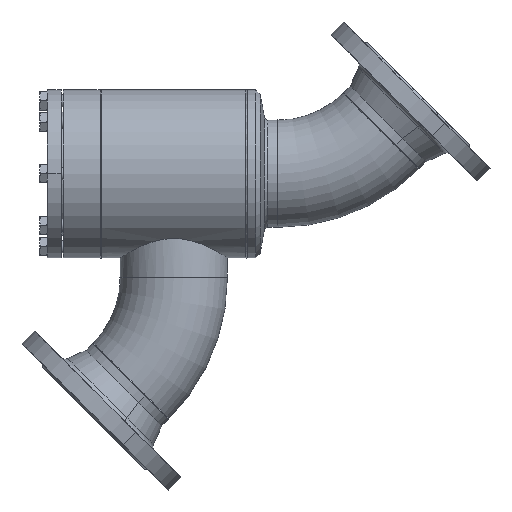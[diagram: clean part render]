
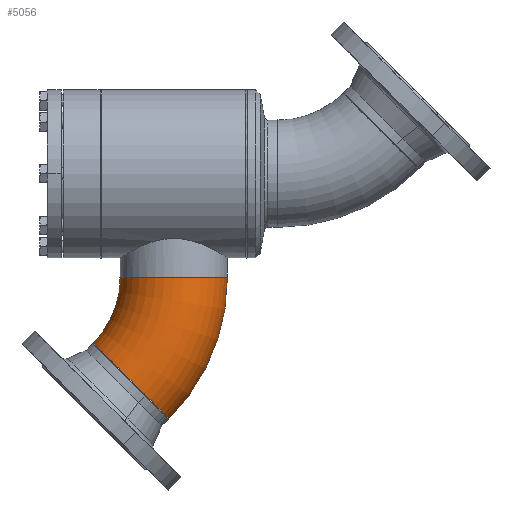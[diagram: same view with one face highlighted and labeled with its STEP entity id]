
A CAD part, left-side view. The second image highlights one B-rep face of the part: STEP entity #5056.
In plain terms, the highlighted toroidal (fillet/blend) face has major radius 190 mm and minor radius 69.85 mm.
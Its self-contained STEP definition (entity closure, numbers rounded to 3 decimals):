
#628 = FACE_OUTER_BOUND ( 'NONE', #5084, .T. ) ;
#629 = TOROIDAL_SURFACE ( 'NONE', #630, 190., 69.85 ) ;
#630 = AXIS2_PLACEMENT_3D ( 'NONE', #631, #632, #633 ) ;
#631 = CARTESIAN_POINT ( 'NONE',  ( 0., -190., 0. ) ) ;
#632 = DIRECTION ( 'NONE',  ( 0., 0., 1. ) ) ;
#633 = DIRECTION ( 'NONE',  ( 1., 0., 0. ) ) ;
#1124 = CIRCLE ( 'NONE', #1125, 120.15 ) ;
#1125 = AXIS2_PLACEMENT_3D ( 'NONE', #1126, #1127, #1128 ) ;
#1126 = CARTESIAN_POINT ( 'NONE',  ( 0., -190., 0. ) ) ;
#1127 = DIRECTION ( 'NONE',  ( 0., 0., 1. ) ) ;
#1128 = DIRECTION ( 'NONE',  ( 1., 0., 0. ) ) ;
#2284 = CARTESIAN_POINT ( 'NONE',  ( 0., -69.85, 0. ) ) ;
#2384 = CIRCLE ( 'NONE', #2385, 69.85 ) ;
#2385 = AXIS2_PLACEMENT_3D ( 'NONE', #2386, #2387, #2388 ) ;
#2386 = CARTESIAN_POINT ( 'NONE',  ( 0., 0., 0. ) ) ;
#2387 = DIRECTION ( 'NONE',  ( 1., 0., 0. ) ) ;
#2388 = DIRECTION ( 'NONE',  ( 0., 0., -1. ) ) ;
#3101 = CARTESIAN_POINT ( 'NONE',  ( 0., 69.85, 0. ) ) ;
#3201 = CIRCLE ( 'NONE', #3202, 259.85 ) ;
#3202 = AXIS2_PLACEMENT_3D ( 'NONE', #3203, #3204, #3205 ) ;
#3203 = CARTESIAN_POINT ( 'NONE',  ( 0., -190., 0. ) ) ;
#3204 = DIRECTION ( 'NONE',  ( 0., 0., 1. ) ) ;
#3205 = DIRECTION ( 'NONE',  ( 1., 0., 0. ) ) ;
#4805 = VERTEX_POINT ( 'NONE', #3101 ) ;
#4823 = EDGE_CURVE ( 'NONE', #4934, #4805, #3201, .T. ) ;
#4864 = ORIENTED_EDGE ( 'NONE', *, *, #4823, .T. ) ;
#4920 = VERTEX_POINT ( 'NONE', #7665 ) ;
#4934 = VERTEX_POINT ( 'NONE', #8018 ) ;
#4961 = EDGE_CURVE ( 'NONE', #4934, #4920, #8465, .T. ) ;
#4993 = ORIENTED_EDGE ( 'NONE', *, *, #4961, .F. ) ;
#5056 = ADVANCED_FACE ( 'NONE', ( #628 ), #629, .T. ) ;
#5084 = EDGE_LOOP ( 'NONE', ( #4993, #4864, #5706, #5591 ) ) ;
#5546 = EDGE_CURVE ( 'NONE', #4920, #5642, #1124, .T. ) ;
#5591 = ORIENTED_EDGE ( 'NONE', *, *, #5546, .F. ) ;
#5642 = VERTEX_POINT ( 'NONE', #2284 ) ;
#5663 = EDGE_CURVE ( 'NONE', #4805, #5642, #2384, .T. ) ;
#5706 = ORIENTED_EDGE ( 'NONE', *, *, #5663, .T. ) ;
#7665 = CARTESIAN_POINT ( 'NONE',  ( 84.959, -105.041, 0. ) ) ;
#8018 = CARTESIAN_POINT ( 'NONE',  ( 183.742, -6.258, 0. ) ) ;
#8465 = CIRCLE ( 'NONE', #8466, 69.85 ) ;
#8466 = AXIS2_PLACEMENT_3D ( 'NONE', #8467, #8468, #8469 ) ;
#8467 = CARTESIAN_POINT ( 'NONE',  ( 134.35, -55.65, 0. ) ) ;
#8468 = DIRECTION ( 'NONE',  ( 0.707, -0.707, 0. ) ) ;
#8469 = DIRECTION ( 'NONE',  ( 0., 0., -1. ) ) ;
